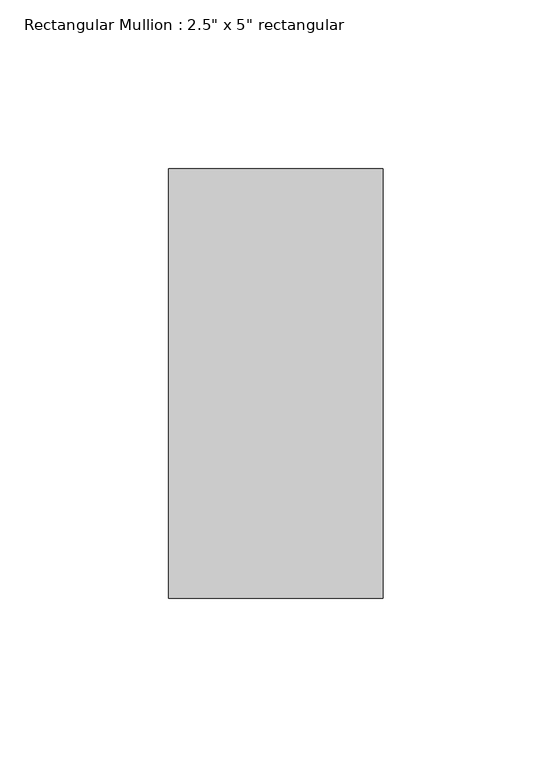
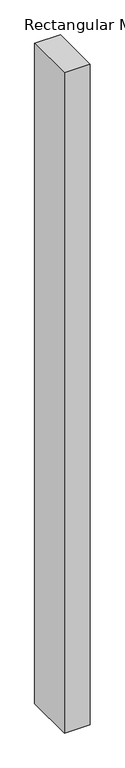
"""IFC4 building model written with IfcOpenShell, lengths in millimetres: member geometry."""

import ifcopenshell
import ifcopenshell.guid

model = None  # the IFC model being written
_history = None  # IfcOwnerHistory: only IFC2X3 demands one
_inside = {}  # id of a spatial element -> (the spatial element, [elements in it])
_under = {}  # id of a project, library or spatial element -> (it, [spatial elements below it])
_declared = {}  # id of a project -> (the project, [libraries it declares])
_typed = {}  # id of a type object -> (the type object, [elements of that type])
_made_of = {}  # id of a material, layer set ... -> (it, [elements and type objects made of it])


def new_model(schema):
    """Start an empty IFC model of exactly this schema.

    Asked for "IFC4X3", IfcOpenShell would pick the latest addendum, in which some entities
    have other attributes; the version numbers below select the first issue.
    IFC2X3 requires an IfcOwnerHistory on every rooted entity: one is made here for all.
    """
    global model, _history
    if schema == "IFC4X3":
        model = ifcopenshell.file(schema_version=(4, 3, 0, 0))
    else:
        model = ifcopenshell.file(schema=schema)
    _inside.clear()
    _under.clear()
    _declared.clear()
    _typed.clear()
    _made_of.clear()
    _history = None
    if model.schema == "IFC2X3":
        org = make("IfcOrganization", Name="unknown")
        user = make(
            "IfcPersonAndOrganization",
            ThePerson=make("IfcPerson", FamilyName="unknown"),
            TheOrganization=org,
        )
        app = make(
            "IfcApplication",
            ApplicationDeveloper=org,
            Version="unknown",
            ApplicationFullName="unknown",
            ApplicationIdentifier="unknown",
        )
        _history = make(
            "IfcOwnerHistory",
            OwningUser=user,
            OwningApplication=app,
            ChangeAction="ADDED",
            CreationDate=0,
        )
    return model


def make(cls, **values):
    """One entity of the class cls with the attributes given. An attribute that is None is left unset."""
    return model.create_entity(
        cls, **{name: value for name, value in values.items() if value is not None}
    )


def rooted(cls, **values):
    """An entity with a GlobalId (a new one), such as an element, a storey or a relation."""
    return make(cls, GlobalId=ifcopenshell.guid.new(), OwnerHistory=_history, **values)


def si_unit(unit_type, name, prefix=None):
    """IfcSIUnit, for example si_unit("LENGTHUNIT", "METRE", prefix="MILLI")."""
    return make("IfcSIUnit", UnitType=unit_type, Prefix=prefix, Name=name)


def assignment(units):
    """IfcUnitAssignment: the units of a project."""
    return None if units is None else make("IfcUnitAssignment", Units=units)


def point(xyz):
    """IfcCartesianPoint."""
    return None if xyz is None else make("IfcCartesianPoint", Coordinates=xyz)


def direction(xyz):
    """IfcDirection."""
    return None if xyz is None else make("IfcDirection", DirectionRatios=xyz)


def frame(location, z_axis=None, x_axis=None):
    """IfcAxis2Placement3D, a coordinate frame: its origin and axes. An axis left out is left unset."""
    return make(
        "IfcAxis2Placement3D",
        Location=point(location),
        Axis=direction(z_axis),
        RefDirection=direction(x_axis),
    )


def origin():
    """The frame at (0, 0, 0) with its axes left unset."""
    return frame((0.0, 0.0, 0.0))


def place(relative_to, where):
    """IfcLocalPlacement: puts the frame where relative to a parent placement (None: the world)."""
    return make(
        "IfcLocalPlacement", PlacementRelTo=relative_to, RelativePlacement=where
    )


def context(
    kind, dimensions, precision=None, world=None, true_north=None, identifier=None
):
    """IfcGeometricRepresentationContext, for example the 3D "Model" context."""
    return make(
        "IfcGeometricRepresentationContext",
        ContextIdentifier=identifier,
        ContextType=kind,
        CoordinateSpaceDimension=dimensions,
        Precision=precision,
        WorldCoordinateSystem=world,
        TrueNorth=true_north,
    )


def project(units=None, contexts=None):
    """IfcProject with its units and contexts."""
    return rooted(
        "IfcProject",
        Name="project",
        RepresentationContexts=contexts,
        UnitsInContext=assignment(units),
    )


def spatial(cls, under=None, at=None, **own):
    """A site, building, storey or space (cls), placed at a placement, below another one or the project."""
    s = rooted(cls, ObjectPlacement=at, **own)
    if under is not None:
        _under.setdefault(under.id(), (under, []))[1].append(s)
    return s


def polyline(points):
    """IfcPolyline through the points."""
    return make("IfcPolyline", Points=[point(p) for p in points])


def outline(outer, holes=None, kind="AREA"):
    """IfcArbitraryClosedProfileDef: a profile drawn as a closed curve; with holes, ...WithVoids."""
    if holes is None:
        return make("IfcArbitraryClosedProfileDef", ProfileType=kind, OuterCurve=outer)
    return make(
        "IfcArbitraryProfileDefWithVoids",
        ProfileType=kind,
        OuterCurve=outer,
        InnerCurves=holes,
    )


def extrude(swept, where, along, depth):
    """IfcExtrudedAreaSolid: the profile swept, set in the frame where, extruded along a direction by depth."""
    return make(
        "IfcExtrudedAreaSolid",
        SweptArea=swept,
        Position=where,
        ExtrudedDirection=direction(along),
        Depth=depth,
    )


def shape(context_of_items, identifier, shape_type, items):
    """IfcShapeRepresentation: the items that make up one representation, for example the "Body"."""
    return make(
        "IfcShapeRepresentation",
        ContextOfItems=context_of_items,
        RepresentationIdentifier=identifier,
        RepresentationType=shape_type,
        Items=items,
    )


def source(mapping_origin, context_of_items, identifier, shape_type, items):
    """IfcRepresentationMap: a shape defined once, which mapped items show again and again."""
    return make(
        "IfcRepresentationMap",
        MappingOrigin=mapping_origin,
        MappedRepresentation=shape(context_of_items, identifier, shape_type, items),
    )


def transform(
    local_origin,
    x_axis=None,
    y_axis=None,
    z_axis=None,
    scale=None,
    scale2=None,
    scale3=None,
    uniform=True,
):
    """IfcCartesianTransformationOperator3D, or its non-uniform kind. x_axis, y_axis, z_axis: its Axis1, 2, 3."""
    if uniform:
        return make(
            "IfcCartesianTransformationOperator3D",
            Axis1=direction(x_axis),
            Axis2=direction(y_axis),
            LocalOrigin=point(local_origin),
            Scale=scale,
            Axis3=direction(z_axis),
        )
    return make(
        "IfcCartesianTransformationOperator3DnonUniform",
        Axis1=direction(x_axis),
        Axis2=direction(y_axis),
        LocalOrigin=point(local_origin),
        Scale=scale,
        Axis3=direction(z_axis),
        Scale2=scale2,
        Scale3=scale3,
    )


def mapped(mapping_source, mapping_target):
    """IfcMappedItem: shows the shape of a source again, moved by a transform."""
    return make(
        "IfcMappedItem", MappingSource=mapping_source, MappingTarget=mapping_target
    )


def made_of(thing, what):
    """Note that an element or type object is made of a material, layer set ...; save() writes the relation."""
    if what is not None:
        _made_of.setdefault(what.id(), (what, []))[1].append(thing)
    return thing


def element(
    cls,
    number,
    at=None,
    inside=None,
    cuts=None,
    type_object=None,
    material=None,
    context=None,
    identifier="Body",
    shape_type=None,
    held_by="IfcProductDefinitionShape",
    body=None,
    shapes=None,
    **own,
):
    """One element of the class cls, such as IfcWall. Its Tag is "e" and its number.

    at: its placement. inside: the storey or other place that contains it. cuts: it is an
    opening in that element (IfcRelVoidsElement). A single representation is given by context,
    identifier, shape_type and body (its items); several are given by shapes. held_by: the class
    of the entity that holds the representations. save() writes the other relations.
    """
    e = rooted(cls, Tag="e%d" % number, ObjectPlacement=at, **own)
    if body is not None:
        shapes = [shape(context, identifier, shape_type, body)]
    if shapes is not None:
        e.Representation = make(held_by, Representations=shapes)
    if inside is not None:
        _inside.setdefault(inside.id(), (inside, []))[1].append(e)
    if cuts is not None:
        rooted(
            "IfcRelVoidsElement", RelatingBuildingElement=cuts, RelatedOpeningElement=e
        )
    if type_object is not None:
        _typed.setdefault(type_object.id(), (type_object, []))[1].append(e)
    return made_of(e, material)


def aggregate(whole, parts):
    """IfcRelAggregates: a whole, such as a stair, and the parts it consists of."""
    return rooted("IfcRelAggregates", RelatingObject=whole, RelatedObjects=parts)


def save(model, path):
    """Write the relations noted so far, then the file.

    IfcRelAggregates (storeys below a building ...), IfcRelContainedInSpatialStructure (elements
    in a storey), IfcRelDefinesByType, IfcRelAssociatesMaterial and IfcRelDeclares: one each for
    every whole, place, type object, material and project.
    """
    for whole, parts in _under.values():
        aggregate(whole, parts)
    for where, things in _inside.values():
        rooted(
            "IfcRelContainedInSpatialStructure",
            RelatedElements=things,
            RelatingStructure=where,
        )
    for kind, things in _typed.values():
        rooted("IfcRelDefinesByType", RelatedObjects=things, RelatingType=kind)
    for what, things in _made_of.values():
        rooted("IfcRelAssociatesMaterial", RelatedObjects=things, RelatingMaterial=what)
    for by, libraries in _declared.values():
        rooted("IfcRelDeclares", RelatingContext=by, RelatedDefinitions=libraries)
    model.write(path)


def member_3f269cb9(model_context):
    return source(origin(), model_context, "Body", "SweptSolid", [
        extrude(outline(polyline([(0.0, 63.5), (0.0, -63.5), (-63.5, -63.5), (-63.5, 63.5), (0.0, 63.5)])), frame((0.0, 0.0, -1724.2091755), z_axis=(0.0, 0.0, 1.0), x_axis=(1.0, 0.0, 0.0)), (0.0, 0.0, 1.0), 1724.2091755),
    ])


if __name__ == "__main__":
    model = new_model("IFC4")
    model_context = context("Model", 3, world=origin())
    ifc_project = project(units=[si_unit("LENGTHUNIT", "METRE", prefix="MILLI")], contexts=[model_context])
    site = spatial("IfcSite", under=ifc_project)
    building = spatial("IfcBuilding", under=site)
    placement = place(None, origin())
    member_shape = member_3f269cb9(model_context)
    element("IfcMember", 1, ObjectType="Rectangular Mullion : 2.5\" x 5\" rectangular", at=placement, inside=building, context=model_context, shape_type="MappedRepresentation", body=[
        mapped(member_shape, transform((0.0, 0.0, 0.0), x_axis=(1.0, 0.0, 0.0), y_axis=(0.0, 1.0, 0.0), z_axis=(0.0, 0.0, 1.0))),
    ])
    save(model, "model.ifc")
